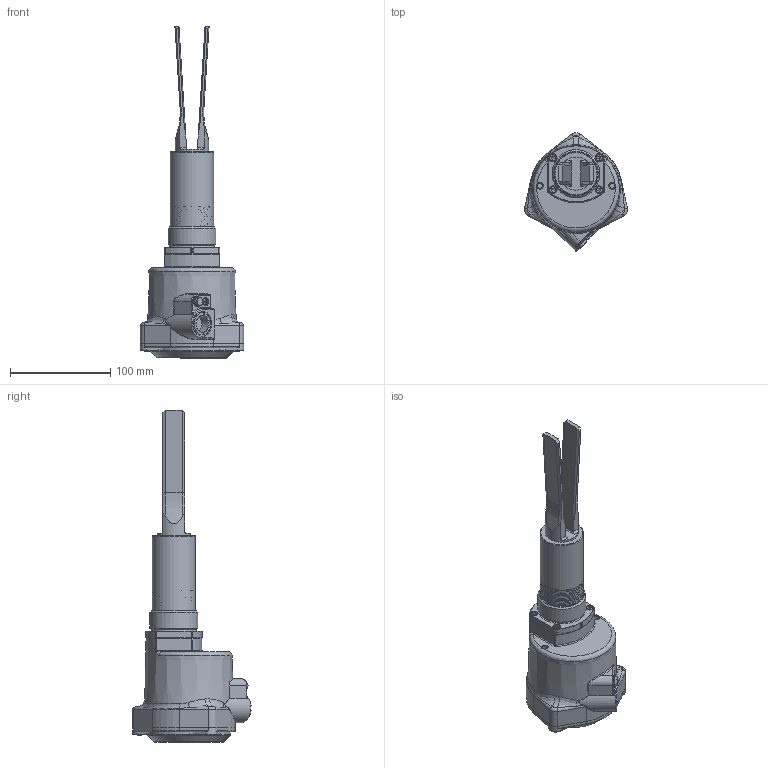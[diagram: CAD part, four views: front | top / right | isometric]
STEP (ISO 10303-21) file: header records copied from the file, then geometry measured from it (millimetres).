
FILE_DESCRIPTION(/* description */ (''),/* implementation_level */ '2;1');
FILE_NAME(/* name */ 'GR16_0001_00-00.stp',/* time_stamp */ '2025-03-14T17:04:01+01:00',/* author */ ('Stefano Padovani'),/* organization */ ('CAMLogic Srl'),/* preprocessor_version */ 'ST-DEVELOPER v20',/* originating_system */ 'Autodesk Inventor 2024',/* authorisation */ '');
FILE_SCHEMA (('AUTOMOTIVE_DESIGN { 1 0 10303 214 3 1 1 }'));
Products named in the file (26): GR16_0001_00-00; 0401_0081_00-00; 0111_0054_00-01; 0115_0053_00-00; 0410_0077_00-00; 0113_008_0; 0115_0002_00-00; 0115_004_0; 0115_009_0; 0213_0006_00-00; 0230_0001_00-00; SG08_0010_16-00; 0402_0017_00-00; 0111_019_0; 0303_0019_00-00; 0303_0037_00-00; 0411_0005_01-00; 0411_0005_01-00_1; 0409_0001_00_01; 0411_0002_00-00; FORK; PIEZO; Parte7; CAVI_3; WIRE_HOUSING_4; PCB
Assembly tree (31 placements, depth 4):
  GR16_0001_00-00
    0401_0081_00-00
    0111_0054_00-01
    0115_0053_00-00  x4
    0410_0077_00-00
    0113_008_0
    0115_0002_00-00  x2
    0115_004_0  x3
    0115_009_0
    0213_0006_00-00
    0230_0001_00-00
    SG08_0010_16-00
      0402_0017_00-00
      0111_019_0
      0303_0019_00-00
      0303_0037_00-00
    0411_0005_01-00
      0411_0005_01-00_1
      0409_0001_00_01
      0411_0002_00-00
        FORK
        PIEZO
        Parte7
        CAVI_3
        WIRE_HOUSING_4
        PCB
Bounding box: 102.8 x 118.07 x 330.62 mm (x, y, z)
Volume: 509036 mm3; surface area: 195842.9 mm2
Topology: 31 solids, 33 shells, 1843 faces, 4677 edges, 2957 vertices
Faces by surface type: plane 892, cylinder 409, bspline 209, torus 163, cone 145, sphere 25
Full cylindrical faces by diameter (mm): 1 x3, 1.5 x3, 3.2 x2, 3.242 x4, 3.621 x2, 3.7 x2, 3.85 x9, 4 x6, 4.134 x2, 4.3 x3, 4.5 x2, 4.6 x3, 4.65 x4, 5 x13, 5.2 x3, 5.3 x1, 5.5 x5, 5.55 x2, 6.88 x1, 7 x4, 7.333 x1, 7.5 x4, 8 x1, 8.5 x3, 9.6 x2, 10 x4, 10.3 x2, 10.5 x1, 10.8 x3, 17 x1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
Entity records: 59981 total; most frequent: CARTESIAN_POINT 18722, ORIENTED_EDGE 8424, DIRECTION 7964, EDGE_CURVE 4212, AXIS2_PLACEMENT_3D 2869, VERTEX_POINT 2697, LINE 2226, VECTOR 2226
